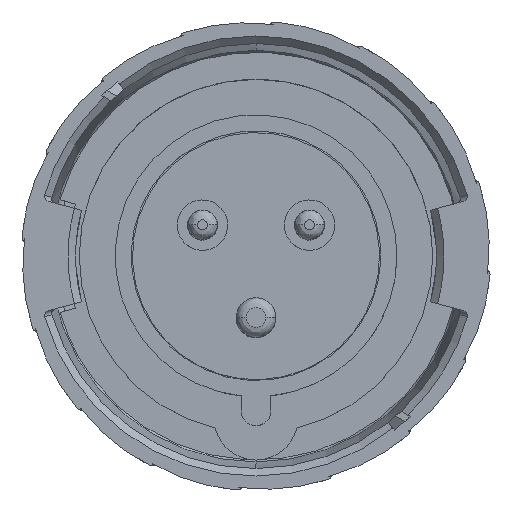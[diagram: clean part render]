
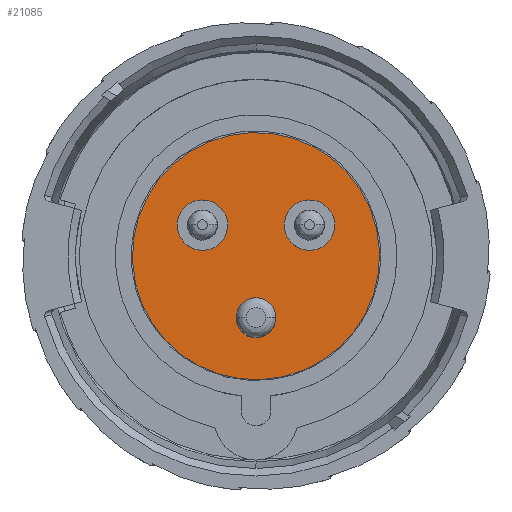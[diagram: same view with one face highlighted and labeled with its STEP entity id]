
A CAD part, top view. The second image highlights one B-rep face of the part: STEP entity #21085.
In plain terms, the highlighted planar face has unit normal (0, 0, 1).
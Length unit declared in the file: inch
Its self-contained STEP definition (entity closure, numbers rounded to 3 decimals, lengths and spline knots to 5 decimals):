
#20461=CARTESIAN_POINT('',(0.42619,0.24606,
4.47001));
#20462=DIRECTION('',(0.,0.,1.));
#20463=DIRECTION('',(0.991,-0.131,0.));
#20464=AXIS2_PLACEMENT_3D('',#20461,#20462,#20463);
#20466=CARTESIAN_POINT('',(0.42619,0.24606,
4.47001));
#20467=DIRECTION('',(0.,0.,1.));
#20468=DIRECTION('',(-0.991,0.131,0.));
#20469=AXIS2_PLACEMENT_3D('',#20466,#20467,#20468);
#20481=CARTESIAN_POINT('',(-0.42619,0.24606,
4.47001));
#20482=DIRECTION('',(0.,0.,1.));
#20483=DIRECTION('',(0.991,-0.131,0.));
#20484=AXIS2_PLACEMENT_3D('',#20481,#20482,#20483);
#20486=CARTESIAN_POINT('',(-0.42619,0.24606,
4.47001));
#20487=DIRECTION('',(0.,0.,1.));
#20488=DIRECTION('',(-0.991,0.131,0.));
#20489=AXIS2_PLACEMENT_3D('',#20486,#20487,#20488);
#20491=CARTESIAN_POINT('',(0.,-0.49213,4.47001));
#20492=DIRECTION('',(0.,0.,1.));
#20493=DIRECTION('',(0.991,-0.131,0.));
#20494=AXIS2_PLACEMENT_3D('',#20491,#20492,#20493);
#20496=CARTESIAN_POINT('',(0.,-0.49213,4.47001));
#20497=DIRECTION('',(0.,0.,1.));
#20498=DIRECTION('',(-0.991,0.131,0.));
#20499=AXIS2_PLACEMENT_3D('',#20496,#20497,#20498);
#20505=CARTESIAN_POINT('',(0.,0.,4.47001));
#20506=DIRECTION('',(0.,0.,1.));
#20507=DIRECTION('',(0.131,0.991,0.));
#20508=AXIS2_PLACEMENT_3D('',#20505,#20506,#20507);
#20514=CARTESIAN_POINT('',(0.,0.,4.47001));
#20515=DIRECTION('',(0.,0.,-1.));
#20516=DIRECTION('',(0.131,0.991,0.));
#20517=AXIS2_PLACEMENT_3D('',#20514,#20515,#20516);
#20930=CARTESIAN_POINT('',(0.12847,0.97583,
4.47001));
#20932=VERTEX_POINT('',#20930);
#20946=CARTESIAN_POINT('',(-0.12847,-0.97583,
4.47001));
#20948=VERTEX_POINT('',#20946);
#20980=CARTESIAN_POINT('',(0.62522,0.21986,
4.47001));
#20981=CARTESIAN_POINT('',(0.22717,0.27227,
4.47001));
#20982=VERTEX_POINT('',#20980);
#20983=VERTEX_POINT('',#20981);
#20988=CARTESIAN_POINT('',(-0.22717,0.21986,
4.47001));
#20989=CARTESIAN_POINT('',(-0.62522,0.27227,
4.47001));
#20990=VERTEX_POINT('',#20988);
#20991=VERTEX_POINT('',#20989);
#20996=CARTESIAN_POINT('',(0.15711,-0.51281,
4.47001));
#20997=CARTESIAN_POINT('',(-0.15711,-0.47144,
4.47001));
#20998=VERTEX_POINT('',#20996);
#20999=VERTEX_POINT('',#20997);
#21056=CARTESIAN_POINT('',(0.,0.,4.47001));
#21057=DIRECTION('',(0.,0.,-1.));
#21058=DIRECTION('',(0.131,0.991,0.));
#21059=AXIS2_PLACEMENT_3D('',#21056,#21057,#21058);
#21060=PLANE('',#21059);
#21062=ORIENTED_EDGE('',*,*,#21061,.F.);
#21064=ORIENTED_EDGE('',*,*,#21063,.T.);
#21065=EDGE_LOOP('',(#21062,#21064));
#21066=FACE_OUTER_BOUND('',#21065,.F.);
#21068=ORIENTED_EDGE('',*,*,#21067,.T.);
#21070=ORIENTED_EDGE('',*,*,#21069,.T.);
#21071=EDGE_LOOP('',(#21068,#21070));
#21072=FACE_BOUND('',#21071,.F.);
#21074=ORIENTED_EDGE('',*,*,#21073,.T.);
#21076=ORIENTED_EDGE('',*,*,#21075,.T.);
#21077=EDGE_LOOP('',(#21074,#21076));
#21078=FACE_BOUND('',#21077,.F.);
#21080=ORIENTED_EDGE('',*,*,#21079,.T.);
#21082=ORIENTED_EDGE('',*,*,#21081,.T.);
#21083=EDGE_LOOP('',(#21080,#21082));
#21084=FACE_BOUND('',#21083,.F.);
#21085=ADVANCED_FACE('',(#21066,#21072,#21078,#21084),#21060,.F.);
#20465=CIRCLE('',#20464,0.20074);
#20470=CIRCLE('',#20469,0.20074);
#20485=CIRCLE('',#20484,0.20074);
#20490=CIRCLE('',#20489,0.20074);
#20495=CIRCLE('',#20494,0.15846);
#20500=CIRCLE('',#20499,0.15846);
#20509=CIRCLE('',#20508,0.98425);
#20518=CIRCLE('',#20517,0.98425);
#21061=EDGE_CURVE('',#20932,#20948,#20509,.T.);
#21063=EDGE_CURVE('',#20932,#20948,#20518,.T.);
#21067=EDGE_CURVE('',#20982,#20983,#20465,.T.);
#21069=EDGE_CURVE('',#20983,#20982,#20470,.T.);
#21073=EDGE_CURVE('',#20990,#20991,#20485,.T.);
#21075=EDGE_CURVE('',#20991,#20990,#20490,.T.);
#21079=EDGE_CURVE('',#20998,#20999,#20495,.T.);
#21081=EDGE_CURVE('',#20999,#20998,#20500,.T.);
